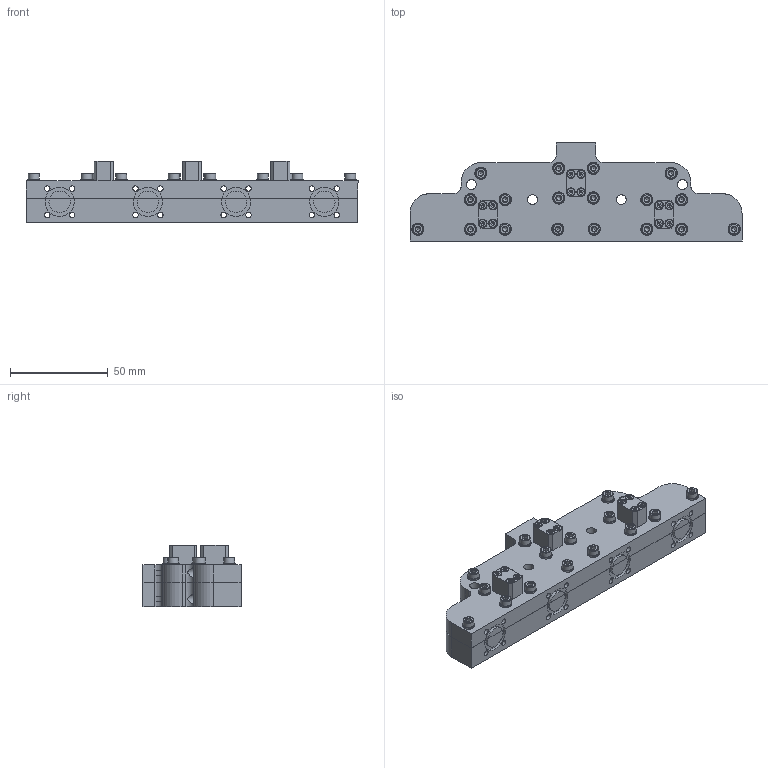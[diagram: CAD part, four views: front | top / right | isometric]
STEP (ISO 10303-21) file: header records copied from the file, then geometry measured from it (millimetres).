
FILE_DESCRIPTION(/* description */ ('Unknown'),/* implementation_level */ '2;1');
FILE_NAME(/* name */ 'DETI_MICROWAVE_MULTI_OCTAVE_BROADBAND_COMBINER _001564_STEP',/* time_stamp */ '2021-06-16T16:27:15+02:00',/* author */ ('ALG'),/* organization */ ('DETI'),/* preprocessor_version */ 'ST-DEVELOPER v16.7',/* originating_system */ 'Solid Edge',/* authorisation */ 'Unknown');
FILE_SCHEMA (('AUTOMOTIVE_DESIGN {1 0 10303 214 3 1 1}'));
Length unit declared in the file: millimetre
Products named in the file (1): 001 564 01 14 01 UE C - Combineur horizontal CompletVisserie2
Bounding box: 169.4 x 50.05 x 31.55 mm (x, y, z)
Volume: 124298 mm3; surface area: 50042 mm2
Topology: 1 solids, 46 shells, 1299 faces, 3465 edges, 2293 vertices
Faces by surface type: plane 791, cylinder 264, cone 174, torus 66, bspline 4
Full cylindrical faces by diameter (mm): 1.567 x12, 1.8 x3, 2 x12, 2.013 x4, 2.2 x12, 2.459 x18, 2.8 x16, 3 x22, 3.4 x21, 3.8 x12, 5 x24, 5.5 x18
Entity records: 46603 total; most frequent: CARTESIAN_POINT 7140, DIRECTION 6214, ORIENTED_EDGE 5912, EDGE_CURVE 2956, AXIS2_PLACEMENT_3D 2159, VERTEX_POINT 2090, LINE 1896, VECTOR 1896
